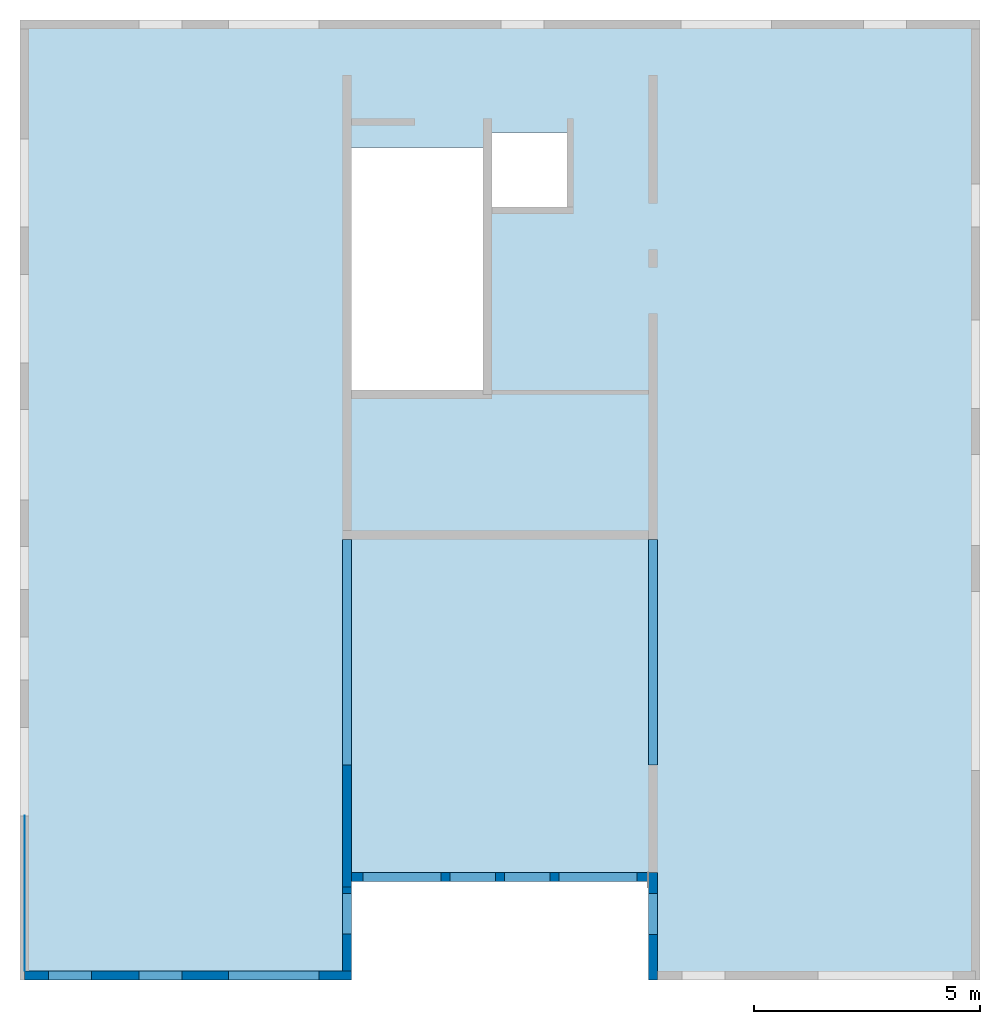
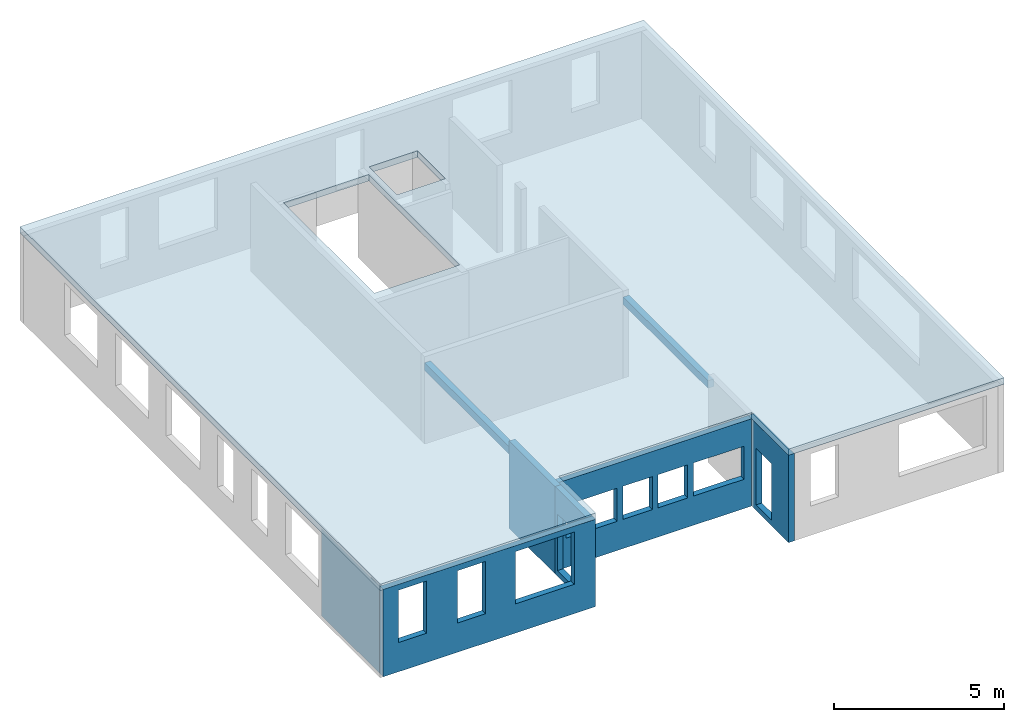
# One storey, part 1 of 3: 6 walls, 2 beams, 1 slab, 12 openings.
"""IFC2X3 building model written with IfcOpenShell, lengths in millimetres."""

from ifc_helpers import new_model, entity, si_unit, converted_unit, frame, frame_2d, origin, origin_with_axes, place, context, subcontext, project, spatial, polyline, rectangle, outline, extrude, material, layer, layer_set, layer_usage, element, save


model = new_model("IFC2X3")

# Units and contexts
model_context = context("Model", 3, precision=1e-05, world=origin())
body_context = subcontext(model_context, "Body", "Model", "MODEL_VIEW")
ifc_project = project(units=[si_unit("LENGTHUNIT", "METRE", prefix="MILLI"), converted_unit("PLANEANGLEUNIT", "DEGREE", entity("IfcPlaneAngleMeasure", 0.0174532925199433), si_unit("PLANEANGLEUNIT", "RADIAN"), dimensions=[0, 0, 0, 0, 0, 0, 0]), si_unit("AREAUNIT", "SQUARE_METRE"), si_unit("VOLUMEUNIT", "CUBIC_METRE")], contexts=[model_context])

# Building, storey
building_placement = place(None, origin())
building = spatial("IfcBuilding", under=ifc_project, at=building_placement, Name="Bâtiment", CompositionType="ELEMENT")
storey_placement = place(building_placement, frame((0.0, 0.0, 8450.0), z_axis=(0.0, 0.0, 1.0), x_axis=(1.0, 0.0, 0.0)))
storey = spatial("IfcBuildingStorey", under=building, at=storey_placement, Name="2. Etage supérieur", CompositionType="ELEMENT", Elevation=8450.0)

# Beams
ifc_material_1 = material(Name="<Unnamed Material>")
beam_1_placement = place(storey_placement, frame((4881.184242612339, -22184.46924332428, 2460.0), z_axis=(0.0, 0.0, 1.0), x_axis=(-0.0001175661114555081, -0.9999999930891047, 0.0)))
element("IfcBeam", 1, at=beam_1_placement, inside=storey, material=ifc_material_1, Name="<Unnamed Element>", context=body_context, shape_type="SweptSolid", body=[
    extrude(rectangle(XDim=270.0, YDim=199.9999999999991, at=frame_2d((135.0, -99.99999999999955), x_axis=(1.0, 0.0))), frame((0.0, 0.0, 0.0), z_axis=(1.0, 0.0, 0.0), x_axis=(0.0, 0.0, 1.0)), (0.0, 0.0, 1.0), 4978.488331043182),
])
ifc_material_2 = material(Name="<Unnamed Material>")
beam_2_placement = place(storey_placement, frame((11839.18511140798, -27163.27107914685, 2460.0), z_axis=(0.0, 0.0, 1.0), x_axis=(-0.001374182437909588, 0.999999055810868, 0.0)))
element("IfcBeam", 2, at=beam_2_placement, inside=storey, material=ifc_material_2, Name="<Unnamed Element>", context=body_context, shape_type="SweptSolid", body=[
    extrude(rectangle(XDim=270.0, YDim=200.0, at=frame_2d((135.0, -100.0), x_axis=(1.0, 0.0))), frame((0.0, 0.0, 0.0), z_axis=(1.0, 0.0, 0.0), x_axis=(0.0, 0.0, 1.0)), (0.0, 0.0, 1.0), 4978.806536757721),
])

# Slab, openings
ifc_material_3 = material(Name="<Unnamed Material>")
ifc_layer_1 = layer(ifc_material_3, 230.0)
ifc_layer_set_1 = layer_set([ifc_layer_1])
ifc_layer_usage_1 = layer_usage(ifc_layer_set_1, "AXIS3", "POSITIVE", 0.0)
slab_placement = place(storey_placement, frame((-2244.258805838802, -31912.83099973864, 2930.0), z_axis=(0.0, 0.0, 1.0), x_axis=(1.0, 0.0, 0.0)))
slab = element("IfcSlab", 3, at=slab_placement, inside=storey, material=ifc_layer_usage_1, Name="<Unnamed Element>", PredefinedType="FLOOR", context=body_context, shape_type="SweptSolid", body=[
    extrude(rectangle(XDim=21199.82647859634, YDim=21201.4045951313, at=frame_2d((10599.91323929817, 10600.70229756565), x_axis=(1.0, 0.0))), origin_with_axes(), (0.0, 0.0, 1.0), 230.0),
])
opening_1_placement = place(slab_placement, frame((7326.44304845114, 13030.34357289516, 0.0), z_axis=(0.0, 0.0, 1.0), x_axis=(1.0, 0.0, 0.0)))
element("IfcOpeningElement", 4, at=opening_1_placement, cuts=slab, Name="Trémie dans dalle", ObjectType="Opening", context=body_context, shape_type="SweptSolid", body=[
    extrude(rectangle(XDim=2900.0, YDim=5350.0, at=frame_2d((1450.0, 2675.0), x_axis=(0.9999999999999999, 0.0))), origin_with_axes(), (0.0, 0.0, 1.0), 230.0),
])
opening_2_placement = place(slab_placement, frame((10425.27382917, 18717.28008817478, 0.0), z_axis=(0.0, 0.0, 1.0), x_axis=(1.0, 0.0, 0.0)))
element("IfcOpeningElement", 5, at=opening_2_placement, cuts=slab, Name="Trémie dans dalle", ObjectType="Opening", context=body_context, shape_type="SweptSolid", body=[
    extrude(rectangle(XDim=1646.106911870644, YDim=1651.041602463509, at=frame_2d((825.5208012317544, -823.0534559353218), x_axis=(0.0, -1.0))), origin_with_axes(), (0.0, 0.0, 1.0), 230.0),
])
opening_3_placement = place(slab_placement, frame((7324.857746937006, 2171.727907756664, 0.0), z_axis=(0.0, 0.0, 1.0), x_axis=(1.0, 0.0, 0.0)))
element("IfcOpeningElement", 6, at=opening_3_placement, cuts=slab, Name="Trémie dans dalle", ObjectType="Opening", context=body_context, shape_type="SweptSolid", body=[
    extrude(rectangle(XDim=2171.727907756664, YDim=6550.64084017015, at=frame_2d((3275.320420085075, -1085.863953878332), x_axis=(0.0, -1.0))), origin_with_axes(), (0.0, 0.0, 1.0), 230.0),
])

# Wall
ifc_material_4 = material(Name="<Unnamed Material>")
ifc_layer_2 = layer(ifc_material_4, 0.5)
ifc_layer_set_2 = layer_set([ifc_layer_2])
ifc_layer_usage_2 = layer_usage(ifc_layer_set_2, "AXIS2", "POSITIVE", -0.25)
wall_1_placement = place(storey_placement, frame((-2144.003774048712, -31711.24569822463, -200.0), z_axis=(0.0, 0.0, 1.0), x_axis=(-2.655974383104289e-16, 1.0, 0.0)))
element("IfcWallStandardCase", 7, at=wall_1_placement, inside=storey, material=ifc_layer_usage_2, Name="<Unnamed Element>", context=body_context, shape_type="SweptSolid", body=[
    extrude(rectangle(XDim=3424.335368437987, YDim=0.5, at=frame_2d((1712.167684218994, 0.25), x_axis=(1.0, 0.0))), origin_with_axes(), (0.0, 0.0, 1.0), 3139.999999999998),
])

# Wall, openings
ifc_material_5 = material(Name="<Unnamed Material>")
ifc_layer_3 = layer(ifc_material_5, 200.0)
ifc_layer_set_3 = layer_set([ifc_layer_3])
ifc_layer_usage_3 = layer_usage(ifc_layer_set_3, "AXIS2", "POSITIVE", -100.0)
wall_2_placement = place(storey_placement, frame((-2144.253774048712, -31911.24569822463, -200.0), z_axis=(0.0, 0.0, 1.0), x_axis=(1.0, 0.0, 0.0)))
wall_2 = element("IfcWallStandardCase", 8, at=wall_2_placement, inside=storey, material=ifc_layer_usage_3, Name="<Unnamed Element>", context=body_context, shape_type="SweptSolid", body=[
    extrude(outline(polyline([(0.0, 0.0), (7225.38649873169, 0.0), (7225.334355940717, 200.0), (0.0, 200.0), (0.0, 0.0)])), origin_with_axes(), (0.0, 0.0, 1.0), 3139.999999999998),
])
opening_4_placement = place(wall_2_placement, frame((4500.108924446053, 0.0, 1050.0), z_axis=(0.0, 1.0, 0.0), x_axis=(0.0, 0.0, 1.0)))
element("IfcOpeningElement", 9, at=opening_4_placement, cuts=wall_2, Name="Baie de fenêtre", ObjectType="Opening", context=body_context, shape_type="SweptSolid", body=[
    extrude(rectangle(XDim=1880.0, YDim=2000.0, at=frame_2d((940.0, 1000.0), x_axis=(1.0, 0.0))), origin_with_axes(), (0.0, 0.0, 1.0), 200.0),
])
opening_5_placement = place(wall_2_placement, frame((524.943159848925, 0.0, 1050.0), z_axis=(0.0, 1.0, 0.0), x_axis=(0.0, 0.0, 1.0)))
element("IfcOpeningElement", 10, at=opening_5_placement, cuts=wall_2, Name="Baie de fenêtre", ObjectType="Opening", context=body_context, shape_type="SweptSolid", body=[
    extrude(rectangle(XDim=1880.0, YDim=950.0, at=frame_2d((940.0, 475.0), x_axis=(1.0, 0.0))), origin_with_axes(), (0.0, 0.0, 1.0), 200.0),
])
opening_6_placement = place(wall_2_placement, frame((2525.22985695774, 0.0, 1050.0), z_axis=(0.0, 1.0, 0.0), x_axis=(0.0, 0.0, 1.0)))
element("IfcOpeningElement", 11, at=opening_6_placement, cuts=wall_2, Name="Baie de fenêtre", ObjectType="Opening", context=body_context, shape_type="SweptSolid", body=[
    extrude(rectangle(XDim=1880.0, YDim=950.0, at=frame_2d((940.0, 475.0), x_axis=(1.0, 0.0))), origin_with_axes(), (0.0, 0.0, 1.0), 200.0),
])

# Wall, opening
ifc_material_6 = material(Name="<Unnamed Material>")
ifc_layer_4 = layer(ifc_material_6, 200.0000000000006)
ifc_layer_set_4 = layer_set([ifc_layer_4])
ifc_layer_usage_4 = layer_usage(ifc_layer_set_4, "AXIS2", "POSITIVE", -200.0)
wall_3_placement = place(storey_placement, frame((11831.23977707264, -31912.87196665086, -200.0), z_axis=(0.0, 0.0, 1.0), x_axis=(0.0002048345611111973, 0.9999999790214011, 0.0)))
wall_3 = element("IfcWallStandardCase", 12, at=wall_3_placement, inside=storey, material=ifc_layer_usage_4, Name="<Unnamed Element>", context=body_context, shape_type="SweptSolid", body=[
    extrude(rectangle(XDim=2370.682616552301, YDim=200.0000000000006, at=frame_2d((1185.34130827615, 100.0000000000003), x_axis=(1.0, 0.0))), origin_with_axes(), (0.0, 0.0, 1.0), 3139.999999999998),
])
opening_7_placement = place(wall_3_placement, frame((1009.686543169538, 3.721745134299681e-13, 200.0), z_axis=(0.0, 1.0, 0.0), x_axis=(0.0, 0.0, 1.0)))
element("IfcOpeningElement", 13, at=opening_7_placement, cuts=wall_3, Name="Porte-fenêtre", ObjectType="Opening", context=body_context, shape_type="SweptSolid", body=[
    extrude(rectangle(XDim=2040.0, YDim=900.0, at=frame_2d((1020.0, 450.0), x_axis=(1.0, 0.0))), origin_with_axes(), (0.0, 0.0, 1.0), 200.0),
])

ifc_material_7 = material(Name="<Unnamed Material>")
ifc_layer_5 = layer(ifc_material_7, 200.0000000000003)
ifc_layer_set_5 = layer_set([ifc_layer_5])
ifc_layer_usage_5 = layer_usage(ifc_layer_set_5, "AXIS2", "POSITIVE", -200.0)
wall_4_placement = place(storey_placement, frame((5081.080581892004, -31711.24569822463, -200.0), z_axis=(0.0, 0.0, 1.0), x_axis=(-0.0002607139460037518, 0.9999999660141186, 0.0)))
wall_4 = element("IfcWallStandardCase", 14, at=wall_4_placement, inside=storey, material=ifc_layer_usage_5, Name="<Unnamed Element>", context=body_context, shape_type="SweptSolid", body=[
    extrude(outline(polyline([(0.0, 0.0), (1847.417824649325, 0.0), (1847.417824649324, 200.0000000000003), (0.05214279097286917, 200.0000000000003), (0.0, 0.0)])), origin_with_axes(), (0.0, 0.0, 1.0), 3139.999999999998),
])
opening_8_placement = place(wall_4_placement, frame((811.88370193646, 1.143529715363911e-14, 200.0), z_axis=(0.0, 1.0, 0.0), x_axis=(0.0, 0.0, 1.0)))
element("IfcOpeningElement", 15, at=opening_8_placement, cuts=wall_4, Name="Porte-fenêtre", ObjectType="Opening", context=body_context, shape_type="SweptSolid", body=[
    extrude(rectangle(XDim=2040.0, YDim=900.0, at=frame_2d((1020.0, 450.0), x_axis=(1.0, 0.0))), origin_with_axes(), (0.0, 0.0, 1.0), 200.0),
])

# Wall, openings
ifc_material_8 = material(Name="<Unnamed Material>")
ifc_layer_6 = layer(ifc_material_8, 200.0)
ifc_layer_set_6 = layer_set([ifc_layer_6])
ifc_layer_usage_6 = layer_usage(ifc_layer_set_6, "AXIS2", "POSITIVE", -200.0)
wall_5_placement = place(storey_placement, frame((11631.23978126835, -29541.10309198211, -200.0), z_axis=(0.0, 0.0, 1.0), x_axis=(-0.9999999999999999, 2.110208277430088e-14, 0.0)))
wall_5 = element("IfcWallStandardCase", 16, at=wall_5_placement, inside=storey, material=ifc_layer_usage_6, Name="<Unnamed Element>", context=body_context, shape_type="SweptSolid", body=[
    extrude(rectangle(XDim=6551.163510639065, YDim=200.0, at=frame_2d((3275.581755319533, 99.99999999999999), x_axis=(1.0, 0.0))), origin_with_axes(), (0.0, 0.0, 1.0), 3139.999999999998),
])
opening_9_placement = place(wall_5_placement, frame((249.8790674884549, 1.81634970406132e-12, 1050.0), z_axis=(0.0, 1.0, 0.0), x_axis=(0.0, 0.0, 1.0)))
element("IfcOpeningElement", 17, at=opening_9_placement, cuts=wall_5, Name="Baie de fenêtre", ObjectType="Opening", context=body_context, shape_type="SweptSolid", body=[
    extrude(rectangle(XDim=1190.0, YDim=1725.0, at=frame_2d((595.0, 862.5), x_axis=(1.0, 0.0))), origin_with_axes(), (0.0, 0.0, 1.0), 200.0),
])
opening_10_placement = place(wall_5_placement, frame((2175.051516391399, 3.821002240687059e-12, 1050.0), z_axis=(0.0, 1.0, 0.0), x_axis=(0.0, 0.0, 1.0)))
element("IfcOpeningElement", 18, at=opening_10_placement, cuts=wall_5, Name="Baie de fenêtre", ObjectType="Opening", context=body_context, shape_type="SweptSolid", body=[
    extrude(rectangle(XDim=1190.0, YDim=1000.0, at=frame_2d((595.0, 500.0), x_axis=(1.0, 0.0))), origin_with_axes(), (0.0, 0.0, 1.0), 199.9999999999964),
])
opening_11_placement = place(wall_5_placement, frame((3375.221812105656, 4.552315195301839e-12, 1050.0), z_axis=(0.0, 1.0, 0.0), x_axis=(0.0, 0.0, 1.0)))
element("IfcOpeningElement", 19, at=opening_11_placement, cuts=wall_5, Name="Baie de fenêtre", ObjectType="Opening", context=body_context, shape_type="SweptSolid", body=[
    extrude(rectangle(XDim=1190.0, YDim=999.9999999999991, at=frame_2d((595.0, 499.9999999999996), x_axis=(1.0, 0.0))), origin_with_axes(), (0.0, 0.0, 1.0), 199.9999999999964),
])
opening_12_placement = place(wall_5_placement, frame((4574.289926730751, 5.259569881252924e-12, 1050.0), z_axis=(0.0, 1.0, 0.0), x_axis=(0.0, 0.0, 1.0)))
element("IfcOpeningElement", 20, at=opening_12_placement, cuts=wall_5, Name="Baie de fenêtre", ObjectType="Opening", context=body_context, shape_type="SweptSolid", body=[
    extrude(rectangle(XDim=1190.0, YDim=1725.0, at=frame_2d((595.0, 862.5), x_axis=(1.0, 0.0))), origin_with_axes(), (0.0, 0.0, 1.0), 200.0),
])

# Wall
ifc_material_9 = material(Name="<Unnamed Material>")
ifc_layer_7 = layer(ifc_material_9, 200.0)
ifc_layer_set_7 = layer_set([ifc_layer_7])
ifc_layer_usage_7 = layer_usage(ifc_layer_set_7, "AXIS2", "POSITIVE", -100.0)
wall_6_placement = place(storey_placement, frame((4880.598941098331, -27162.95753996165, -200.0), z_axis=(0.0, 0.0, 1.0), x_axis=(-4.916328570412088e-14, -0.9999999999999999, 0.0)))
element("IfcWallStandardCase", 21, at=wall_6_placement, inside=storey, material=ifc_layer_usage_7, Name="<Unnamed Element>", context=body_context, shape_type="SweptSolid", body=[
    extrude(outline(polyline([(0.0, 0.0), (2700.922539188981, 0.0), (2700.870396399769, 199.999993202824), (2700.896467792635, 200.0), (2578.145552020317, 199.9999999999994), (2578.145552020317, 199.47732953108), (2378.145552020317, 199.4773295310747), (2378.145552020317, 199.9999999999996), (-2.55669952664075e-12, 200.0), (0.0, 0.0)])), origin_with_axes(), (0.0, 0.0, 1.0), 3139.999999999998),
])

save(model, "model.ifc")
